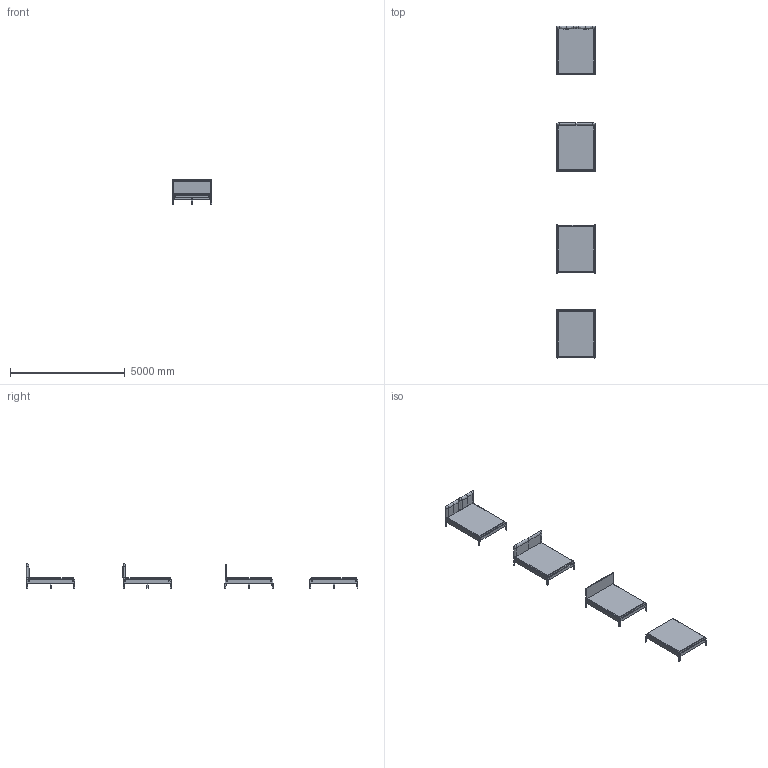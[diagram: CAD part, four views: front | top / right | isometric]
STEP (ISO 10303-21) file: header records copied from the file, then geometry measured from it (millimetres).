
FILE_DESCRIPTION(/* description */ (''),/* implementation_level */ '2;1');
FILE_NAME(/* name */ '160x200',/* time_stamp */ '2025-10-27T19:08:05+01:00',/* author */ (''),/* organization */ (''),/* preprocessor_version */ 'ST-DEVELOPER v16.5',/* originating_system */ 'Rhino 7.38',/* authorisation */ '');
FILE_SCHEMA (('CONFIG_CONTROL_DESIGN'));
Length unit declared in the file: millimetre
Products named in the file (1): Document
Bounding box: 1704.77 x 14475.35 x 1061.81 mm (x, y, z)
Volume: 3049496587 mm3; surface area: 52552163.2 mm2
Topology: 50 solids, 50 shells, 822 faces, 1836 edges, 1098 vertices
Faces by surface type: plane 441, bspline 278, cylinder 103
Entity records: 130152 total; most frequent: CARTESIAN_POINT 117482, ORIENTED_EDGE 3616, EDGE_CURVE 1808, B_SPLINE_CURVE_WITH_KNOTS 1594, VERTEX_POINT 1098, EDGE_LOOP 834, ADVANCED_FACE 822, FACE_OUTER_BOUND 822
